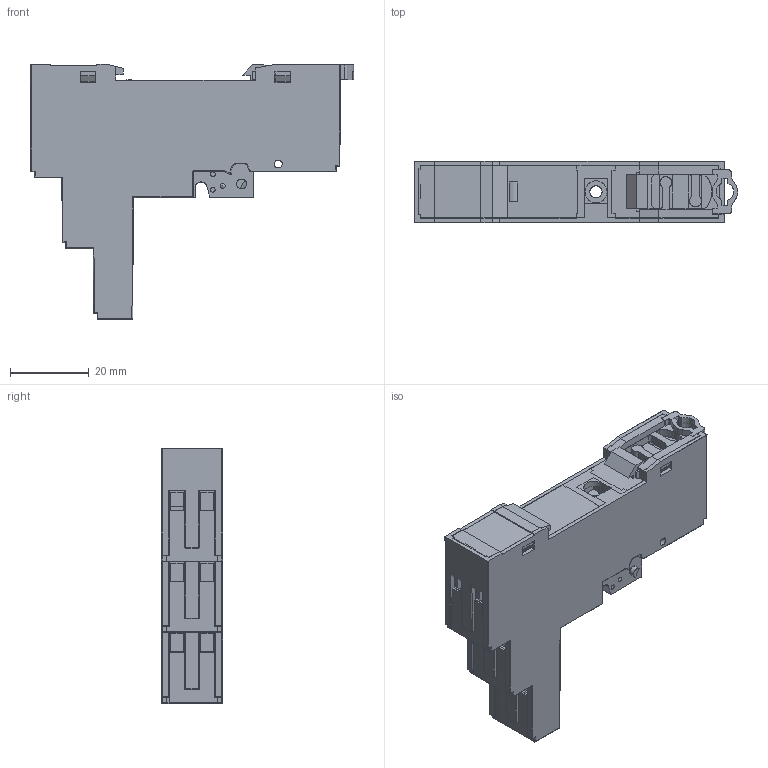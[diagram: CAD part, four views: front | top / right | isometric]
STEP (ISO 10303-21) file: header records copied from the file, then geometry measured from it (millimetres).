
FILE_DESCRIPTION(('STEP AP214'),'2;1');
FILE_NAME('Zoccolo_95_95_3---catalogo OK.stp','2011-01-12T10:42:24',(''),(''),'2007.1.106','THINKDESIGN','');
FILE_SCHEMA(('AUTOMOTIVE_DESIGN'));
Products named in the file (1): None
Bounding box: 82.14 x 15.5 x 64.8 mm (x, y, z)
Surface area: 19582.6 mm2 (no closed solid volume)
Topology: 0 solids, 0 shells, 948 faces, 5553 edges, 5508 vertices
Faces by surface type: plane 635, cylinder 218, bspline 95
Full cylindrical faces by diameter (mm): 1.2 x4, 2 x2, 2.3 x8, 2.5 x2, 3 x10, 3.6 x3, 5.3 x8, 5.6 x1, 6 x1
Entity records: 60914 total; most frequent: CARTESIAN_POINT 21491, DIRECTION 6939, COMPOSITE_CURVE_SEGMENT 5514, TRIMMED_CURVE 4740, VECTOR 4247, LINE 4247, AXIS2_PLACEMENT_3D 1346, OUTER_BOUNDARY_CURVE 948
